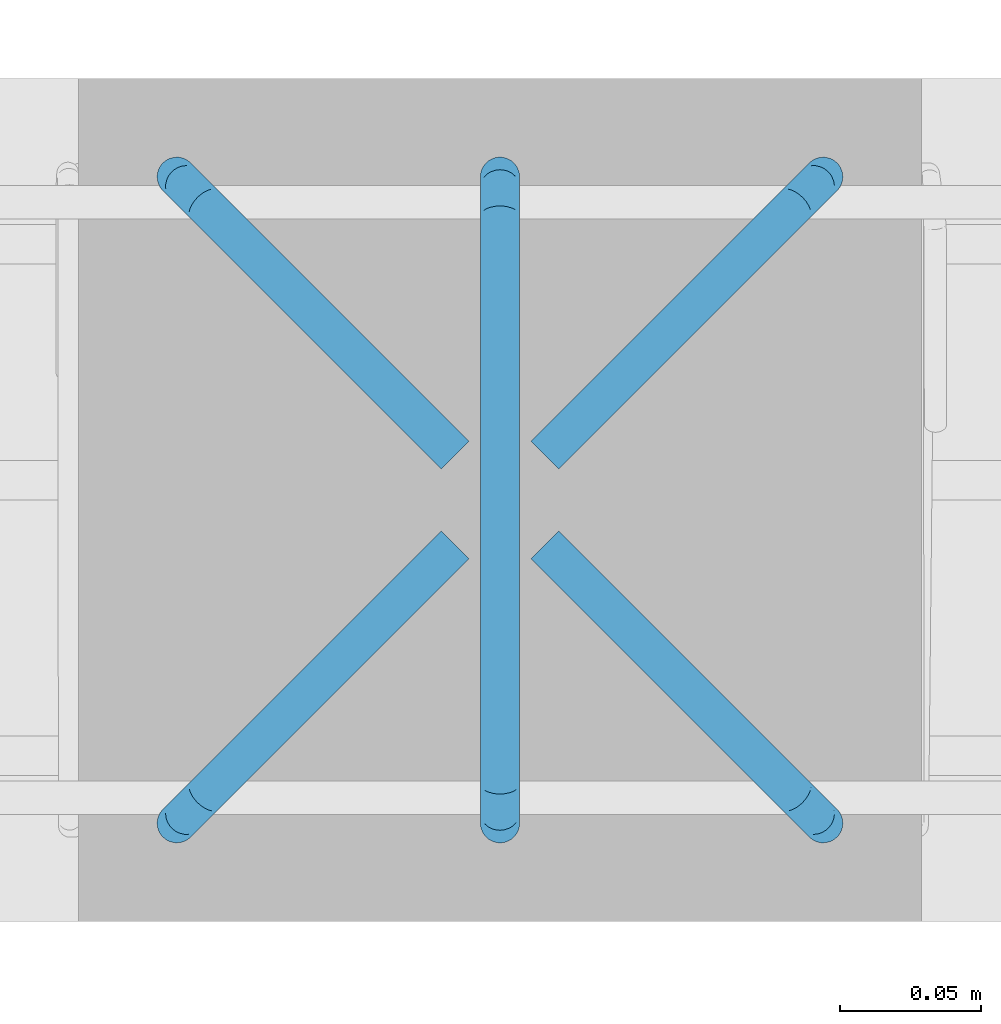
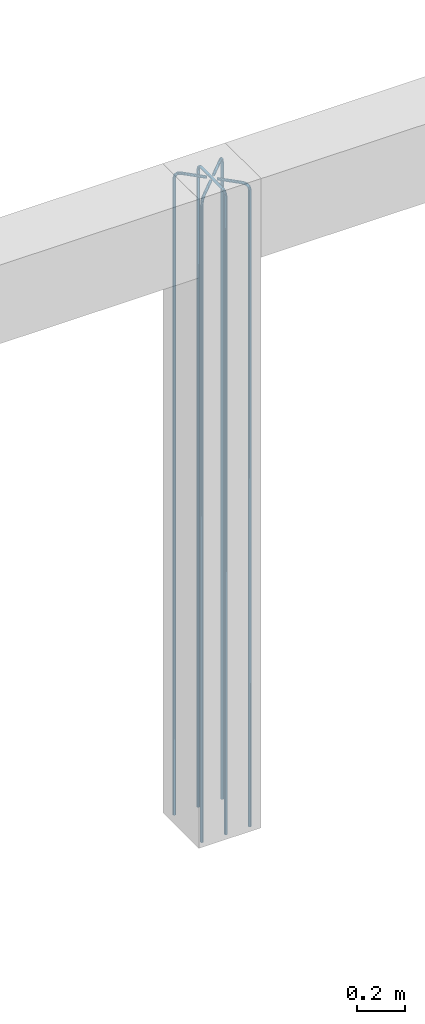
# One storey, part 11 of 24: 1 reinforcing bar.
"""IFC2X3 building model written with IfcOpenShell, lengths in metres."""

from ifc_helpers import new_model, entity, si_unit, direction, frame, origin, place, context, subcontext, project, spatial, shape, source, transform, mapped, element, save


model = new_model("IFC2X3")

# Units and contexts
model_context = context("Model", 3, precision=0.0, world=origin(), true_north=direction((0.0, 1.0)))
plan_context = context("Plan", 3, precision=0.0, world=origin(), true_north=direction((0.0, 1.0)))
body_context = subcontext(model_context, "Body", "Model", "MODEL_VIEW", scale=1.0)
ifc_project = project(units=[si_unit("LENGTHUNIT", "METRE"), si_unit("AREAUNIT", "SQUARE_METRE"), si_unit("VOLUMEUNIT", "CUBIC_METRE"), si_unit("PLANEANGLEUNIT", "RADIAN"), si_unit("THERMODYNAMICTEMPERATUREUNIT", "DEGREE_CELSIUS"), si_unit("FORCEUNIT", "NEWTON"), si_unit("MASSUNIT", "GRAM", prefix="KILO")], contexts=[model_context, plan_context])

# Site, building, storey
placement = place(None, origin())
site = spatial("IfcSite", under=ifc_project, at=placement, Name="Default Site", CompositionType="ELEMENT")
building = spatial("IfcBuilding", under=site, at=placement, Name="Default Building", CompositionType="ELEMENT")
storey_placement = place(placement, frame((0.0, 0.0, 3.3), z_axis=(1.0, 0.0, 0.0), x_axis=(0.0, 0.0, 1.0)))
storey = spatial("IfcBuildingStorey", under=building, at=storey_placement, Name="Piano 2", CompositionType="ELEMENT", Elevation=3.3)

# Reinforcing bar
shared_shape_1 = source(origin(), body_context, None, "AdvancedSweptSolid", [
    entity("IfcSweptDiskSolid", entity("IfcCompositeCurve", [entity("IfcCompositeCurveSegment", "CONTINUOUS", True, entity("IfcPolyline", [entity("IfcCartesianPoint", [0.0, 0.0, 0.0]), entity("IfcCartesianPoint", [0.0, 0.0, 3.237]), entity("IfcCartesianPoint", [0.002653, 0.002653, 3.251]), entity("IfcCartesianPoint", [0.009899, 0.009899, 3.261249]), entity("IfcCartesianPoint", [0.019799, 0.019799, 3.265]), entity("IfcCartesianPoint", [0.098995, 0.098995, 3.265])]))], False), 0.007, 0.0, 0.0),
])
shared_shape_2 = source(origin(), body_context, None, "MappedRepresentation", [mapped(shared_shape_1, transform((3.885, 4.885, 0.0)))])
shared_shape_3 = source(origin(), body_context, None, "AdvancedSweptSolid", [
    entity("IfcSweptDiskSolid", entity("IfcCompositeCurve", [entity("IfcCompositeCurveSegment", "CONTINUOUS", True, entity("IfcPolyline", [entity("IfcCartesianPoint", [0.0, 0.0, 0.0]), entity("IfcCartesianPoint", [0.0, 0.0, 3.237]), entity("IfcCartesianPoint", [-0.002653, 0.002653, 3.251]), entity("IfcCartesianPoint", [-0.009899, 0.009899, 3.261249]), entity("IfcCartesianPoint", [-0.019799, 0.019799, 3.265]), entity("IfcCartesianPoint", [-0.098995, 0.098995, 3.265])]))], False), 0.007, 0.0, 0.0),
])
shared_shape_4 = source(origin(), body_context, None, "MappedRepresentation", [mapped(shared_shape_3, transform((4.115, 4.885, 0.0)))])
shared_shape_5 = source(origin(), body_context, None, "AdvancedSweptSolid", [
    entity("IfcSweptDiskSolid", entity("IfcCompositeCurve", [entity("IfcCompositeCurveSegment", "CONTINUOUS", True, entity("IfcPolyline", [entity("IfcCartesianPoint", [0.0, 0.0, 0.0]), entity("IfcCartesianPoint", [0.0, 0.0, 3.237]), entity("IfcCartesianPoint", [-0.002653, -0.002653, 3.251]), entity("IfcCartesianPoint", [-0.009899, -0.009899, 3.261249]), entity("IfcCartesianPoint", [-0.019799, -0.019799, 3.265]), entity("IfcCartesianPoint", [-0.098995, -0.098995, 3.265])]))], False), 0.007, 0.0, 0.0),
])
shared_shape_6 = source(origin(), body_context, None, "MappedRepresentation", [mapped(shared_shape_5, transform((4.115, 5.115, 0.0)))])
shared_shape_7 = source(origin(), body_context, None, "AdvancedSweptSolid", [
    entity("IfcSweptDiskSolid", entity("IfcCompositeCurve", [entity("IfcCompositeCurveSegment", "CONTINUOUS", True, entity("IfcPolyline", [entity("IfcCartesianPoint", [0.0, 0.0, 0.0]), entity("IfcCartesianPoint", [0.0, 0.0, 3.237]), entity("IfcCartesianPoint", [0.002653, -0.002653, 3.251]), entity("IfcCartesianPoint", [0.009899, -0.009899, 3.261249]), entity("IfcCartesianPoint", [0.019799, -0.019799, 3.265]), entity("IfcCartesianPoint", [0.098995, -0.098995, 3.265])]))], False), 0.007, 0.0, 0.0),
])
shared_shape_8 = source(origin(), body_context, None, "MappedRepresentation", [mapped(shared_shape_7, transform((3.885, 5.115, 0.0)))])
shared_shape_9 = source(origin(), body_context, None, "AdvancedSweptSolid", [
    entity("IfcSweptDiskSolid", entity("IfcCompositeCurve", [entity("IfcCompositeCurveSegment", "CONTINUOUS", True, entity("IfcPolyline", [entity("IfcCartesianPoint", [0.0, 0.0, 0.0]), entity("IfcCartesianPoint", [0.0, 0.0, 3.237]), entity("IfcCartesianPoint", [0.0, 0.003751, 3.251]), entity("IfcCartesianPoint", [0.0, 0.014, 3.261249]), entity("IfcCartesianPoint", [0.0, 0.028, 3.265]), entity("IfcCartesianPoint", [0.0, 0.14, 3.265])]))], False), 0.007, 0.0, 0.0),
])
shared_shape_10 = source(origin(), body_context, None, "MappedRepresentation", [mapped(shared_shape_9, transform((4.0, 4.885, 0.0)))])
shared_shape_11 = source(origin(), body_context, None, "AdvancedSweptSolid", [
    entity("IfcSweptDiskSolid", entity("IfcCompositeCurve", [entity("IfcCompositeCurveSegment", "CONTINUOUS", True, entity("IfcPolyline", [entity("IfcCartesianPoint", [0.0, 0.0, 0.0]), entity("IfcCartesianPoint", [0.0, 0.0, 3.237]), entity("IfcCartesianPoint", [0.0, -0.003751, 3.251]), entity("IfcCartesianPoint", [0.0, -0.014, 3.261249]), entity("IfcCartesianPoint", [0.0, -0.028, 3.265]), entity("IfcCartesianPoint", [0.0, -0.14, 3.265])]))], False), 0.007, 0.0, 0.0),
])
shared_shape_12 = source(origin(), body_context, None, "MappedRepresentation", [mapped(shared_shape_11, transform((4.0, 5.115, 0.0)))])
element("IfcReinforcingBar", 1, at=placement, inside=storey, Name="Arm Principale; Pilastro:12 [Piano:2]", BarLength=20.43, BarRole="MAIN", BarSurface="TEXTURED", NominalDiameter=0.014, shapes=[
    shape(body_context, None, "MappedRepresentation", [mapped(shared_shape_2, transform((0.0, 0.0, 0.0))), mapped(shared_shape_4, transform((0.0, 0.0, 0.0))), mapped(shared_shape_6, transform((0.0, 0.0, 0.0))), mapped(shared_shape_8, transform((0.0, 0.0, 0.0))), mapped(shared_shape_10, transform((0.0, 0.0, 0.0))), mapped(shared_shape_12, transform((0.0, 0.0, 0.0)))]),
])

save(model, "model.ifc")
